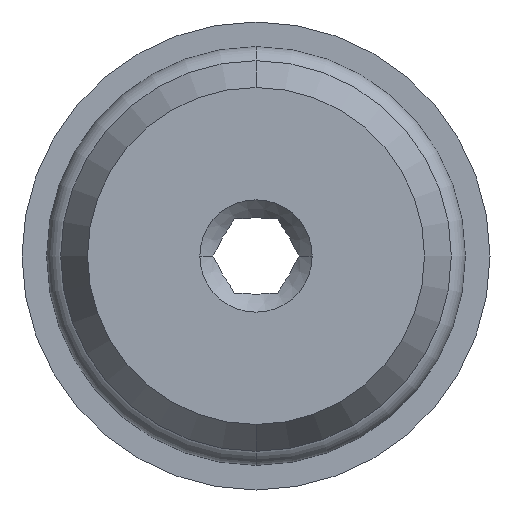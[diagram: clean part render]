
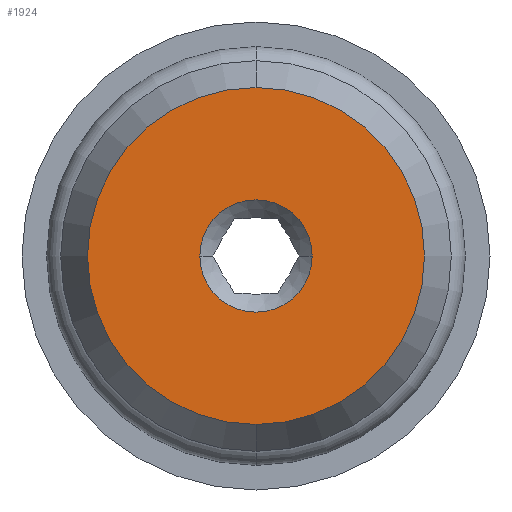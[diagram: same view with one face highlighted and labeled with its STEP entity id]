
A CAD part, front view. The second image highlights one B-rep face of the part: STEP entity #1924.
In plain terms, the highlighted planar face has unit normal (0, -1, 0).
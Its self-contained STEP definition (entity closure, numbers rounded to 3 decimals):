
#382 = AXIS2_PLACEMENT_3D ( 'NONE', #6308, #700, #2588 ) ;
#440 = DIRECTION ( 'NONE',  ( 0., -1., 0. ) ) ;
#700 = DIRECTION ( 'NONE',  ( 0., -1., 0. ) ) ;
#770 = AXIS2_PLACEMENT_3D ( 'NONE', #5999, #440, #4732 ) ;
#1070 = EDGE_CURVE ( 'NONE', #3459, #4988, #5331, .T. ) ;
#1244 = EDGE_LOOP ( 'NONE', ( #5156, #2251 ) ) ;
#1250 = DIRECTION ( 'NONE',  ( 0., -1., 0. ) ) ;
#1322 = CIRCLE ( 'NONE', #382, 9. ) ;
#1783 = EDGE_CURVE ( 'NONE', #6395, #7863, #7031, .T. ) ;
#1853 = CARTESIAN_POINT ( 'NONE',  ( 0., 0., 0. ) ) ;
#1924 = ADVANCED_FACE ( 'NONE', ( #3567, #6061 ), #2953, .T. ) ;
#1999 = AXIS2_PLACEMENT_3D ( 'NONE', #2242, #4809, #5949 ) ;
#2219 = EDGE_CURVE ( 'NONE', #4988, #3459, #1322, .T. ) ;
#2242 = CARTESIAN_POINT ( 'NONE',  ( 0., 0., 0. ) ) ;
#2251 = ORIENTED_EDGE ( 'NONE', *, *, #1783, .F. ) ;
#2568 = ORIENTED_EDGE ( 'NONE', *, *, #1070, .T. ) ;
#2588 = DIRECTION ( 'NONE',  ( 0., 0., -1. ) ) ;
#2905 = CARTESIAN_POINT ( 'NONE',  ( -3., 0., 0. ) ) ;
#2953 = PLANE ( 'NONE',  #4023 ) ;
#3113 = DIRECTION ( 'NONE',  ( 0., -1., 0. ) ) ;
#3459 = VERTEX_POINT ( 'NONE', #4483 ) ;
#3482 = CARTESIAN_POINT ( 'NONE',  ( 3., 0., 0. ) ) ;
#3567 = FACE_BOUND ( 'NONE', #1244, .T. ) ;
#3737 = CARTESIAN_POINT ( 'NONE',  ( 0., 0., 0. ) ) ;
#3888 = AXIS2_PLACEMENT_3D ( 'NONE', #1853, #3113, #4347 ) ;
#4023 = AXIS2_PLACEMENT_3D ( 'NONE', #3737, #1250, #7540 ) ;
#4347 = DIRECTION ( 'NONE',  ( 0., 0., -1. ) ) ;
#4483 = CARTESIAN_POINT ( 'NONE',  ( 0., 0., -9. ) ) ;
#4730 = CIRCLE ( 'NONE', #1999, 3. ) ;
#4732 = DIRECTION ( 'NONE',  ( 1., 0., 0. ) ) ;
#4809 = DIRECTION ( 'NONE',  ( 0., -1., 0. ) ) ;
#4988 = VERTEX_POINT ( 'NONE', #5109 ) ;
#5109 = CARTESIAN_POINT ( 'NONE',  ( 0., 0., 9. ) ) ;
#5156 = ORIENTED_EDGE ( 'NONE', *, *, #5863, .F. ) ;
#5331 = CIRCLE ( 'NONE', #3888, 9. ) ;
#5863 = EDGE_CURVE ( 'NONE', #7863, #6395, #4730, .T. ) ;
#5949 = DIRECTION ( 'NONE',  ( 1., 0., 0. ) ) ;
#5999 = CARTESIAN_POINT ( 'NONE',  ( 0., 0., 0. ) ) ;
#6061 = FACE_OUTER_BOUND ( 'NONE', #7036, .T. ) ;
#6308 = CARTESIAN_POINT ( 'NONE',  ( 0., 0., 0. ) ) ;
#6351 = ORIENTED_EDGE ( 'NONE', *, *, #2219, .T. ) ;
#6395 = VERTEX_POINT ( 'NONE', #2905 ) ;
#7031 = CIRCLE ( 'NONE', #770, 3. ) ;
#7036 = EDGE_LOOP ( 'NONE', ( #6351, #2568 ) ) ;
#7540 = DIRECTION ( 'NONE',  ( 0., 0., -1. ) ) ;
#7863 = VERTEX_POINT ( 'NONE', #3482 ) ;
